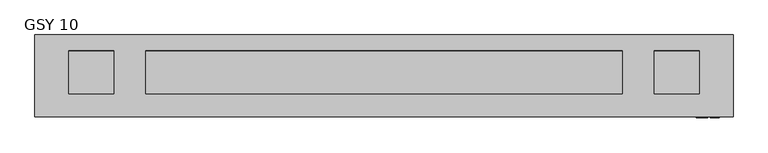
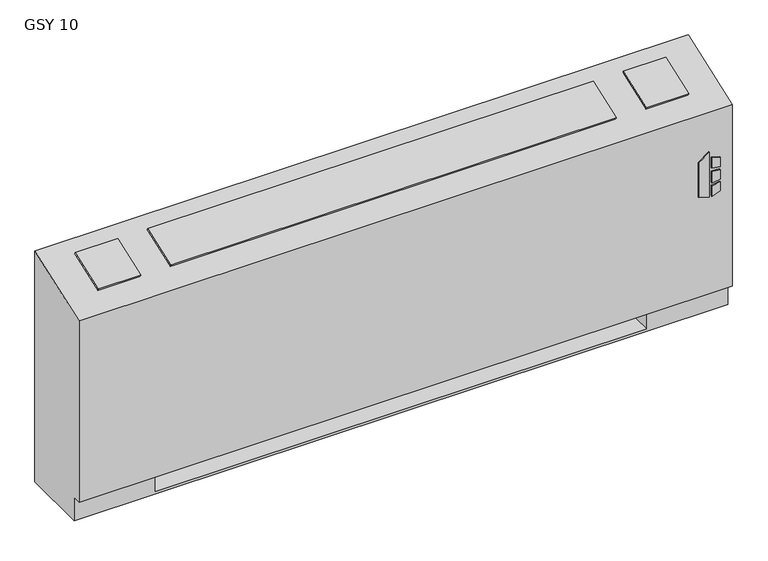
"""IFC4 building model written with IfcOpenShell, lengths in millimetres: proxy geometry, Vertical_Fan_Coil_Unit_-_GSY_-_IEC_-_2-Pipe_TS-FR_LH_2022 : GSY 10."""

import ifcopenshell
import ifcopenshell.guid

model = None  # the IFC model being written
_history = None  # IfcOwnerHistory: only IFC2X3 demands one
_inside = {}  # id of a spatial element -> (the spatial element, [elements in it])
_under = {}  # id of a project, library or spatial element -> (it, [spatial elements below it])
_declared = {}  # id of a project -> (the project, [libraries it declares])
_typed = {}  # id of a type object -> (the type object, [elements of that type])
_made_of = {}  # id of a material, layer set ... -> (it, [elements and type objects made of it])


def new_model(schema):
    """Start an empty IFC model of exactly this schema.

    Asked for "IFC4X3", IfcOpenShell would pick the latest addendum, in which some entities
    have other attributes; the version numbers below select the first issue.
    IFC2X3 requires an IfcOwnerHistory on every rooted entity: one is made here for all.
    """
    global model, _history
    if schema == "IFC4X3":
        model = ifcopenshell.file(schema_version=(4, 3, 0, 0))
    else:
        model = ifcopenshell.file(schema=schema)
    _inside.clear()
    _under.clear()
    _declared.clear()
    _typed.clear()
    _made_of.clear()
    _history = None
    if model.schema == "IFC2X3":
        org = make("IfcOrganization", Name="unknown")
        user = make(
            "IfcPersonAndOrganization",
            ThePerson=make("IfcPerson", FamilyName="unknown"),
            TheOrganization=org,
        )
        app = make(
            "IfcApplication",
            ApplicationDeveloper=org,
            Version="unknown",
            ApplicationFullName="unknown",
            ApplicationIdentifier="unknown",
        )
        _history = make(
            "IfcOwnerHistory",
            OwningUser=user,
            OwningApplication=app,
            ChangeAction="ADDED",
            CreationDate=0,
        )
    return model


def make(cls, **values):
    """One entity of the class cls with the attributes given. An attribute that is None is left unset."""
    return model.create_entity(
        cls, **{name: value for name, value in values.items() if value is not None}
    )


def rooted(cls, **values):
    """An entity with a GlobalId (a new one), such as an element, a storey or a relation."""
    return make(cls, GlobalId=ifcopenshell.guid.new(), OwnerHistory=_history, **values)


def si_unit(unit_type, name, prefix=None):
    """IfcSIUnit, for example si_unit("LENGTHUNIT", "METRE", prefix="MILLI")."""
    return make("IfcSIUnit", UnitType=unit_type, Prefix=prefix, Name=name)


def assignment(units):
    """IfcUnitAssignment: the units of a project."""
    return None if units is None else make("IfcUnitAssignment", Units=units)


def point(xyz):
    """IfcCartesianPoint."""
    return None if xyz is None else make("IfcCartesianPoint", Coordinates=xyz)


def direction(xyz):
    """IfcDirection."""
    return None if xyz is None else make("IfcDirection", DirectionRatios=xyz)


def frame(location, z_axis=None, x_axis=None):
    """IfcAxis2Placement3D, a coordinate frame: its origin and axes. An axis left out is left unset."""
    return make(
        "IfcAxis2Placement3D",
        Location=point(location),
        Axis=direction(z_axis),
        RefDirection=direction(x_axis),
    )


def frame_2d(location, x_axis=None):
    """IfcAxis2Placement2D, a coordinate frame in the plane: its origin and x axis."""
    return make(
        "IfcAxis2Placement2D", Location=point(location), RefDirection=direction(x_axis)
    )


def origin():
    """The frame at (0, 0, 0) with its axes left unset."""
    return frame((0.0, 0.0, 0.0))


def place(relative_to, where):
    """IfcLocalPlacement: puts the frame where relative to a parent placement (None: the world)."""
    return make(
        "IfcLocalPlacement", PlacementRelTo=relative_to, RelativePlacement=where
    )


def context(
    kind, dimensions, precision=None, world=None, true_north=None, identifier=None
):
    """IfcGeometricRepresentationContext, for example the 3D "Model" context."""
    return make(
        "IfcGeometricRepresentationContext",
        ContextIdentifier=identifier,
        ContextType=kind,
        CoordinateSpaceDimension=dimensions,
        Precision=precision,
        WorldCoordinateSystem=world,
        TrueNorth=true_north,
    )


def project(units=None, contexts=None):
    """IfcProject with its units and contexts."""
    return rooted(
        "IfcProject",
        Name="project",
        RepresentationContexts=contexts,
        UnitsInContext=assignment(units),
    )


def spatial(cls, under=None, at=None, **own):
    """A site, building, storey or space (cls), placed at a placement, below another one or the project."""
    s = rooted(cls, ObjectPlacement=at, **own)
    if under is not None:
        _under.setdefault(under.id(), (under, []))[1].append(s)
    return s


def polyline(points):
    """IfcPolyline through the points."""
    return make("IfcPolyline", Points=[point(p) for p in points])


def circle_curve(where, radius):
    """IfcCircle in the frame where."""
    return make("IfcCircle", Position=where, Radius=radius)


def trimmed(basis, trim1, trim2, sense, master):
    """IfcTrimmedCurve: the piece of a basis curve between two trims."""
    return make(
        "IfcTrimmedCurve",
        BasisCurve=basis,
        Trim1=trim1,
        Trim2=trim2,
        SenseAgreement=sense,
        MasterRepresentation=master,
    )


def segment(curve, same_sense, transition):
    """IfcCompositeCurveSegment."""
    return make(
        "IfcCompositeCurveSegment",
        Transition=transition,
        SameSense=same_sense,
        ParentCurve=curve,
    )


def composite_curve(segments, self_intersect=None):
    """IfcCompositeCurve: segments joined end to end."""
    return make("IfcCompositeCurve", Segments=segments, SelfIntersect=self_intersect)


def outline(outer, holes=None, kind="AREA"):
    """IfcArbitraryClosedProfileDef: a profile drawn as a closed curve; with holes, ...WithVoids."""
    if holes is None:
        return make("IfcArbitraryClosedProfileDef", ProfileType=kind, OuterCurve=outer)
    return make(
        "IfcArbitraryProfileDefWithVoids",
        ProfileType=kind,
        OuterCurve=outer,
        InnerCurves=holes,
    )


def extrude(swept, where, along, depth):
    """IfcExtrudedAreaSolid: the profile swept, set in the frame where, extruded along a direction by depth."""
    return make(
        "IfcExtrudedAreaSolid",
        SweptArea=swept,
        Position=where,
        ExtrudedDirection=direction(along),
        Depth=depth,
    )


def shape(context_of_items, identifier, shape_type, items):
    """IfcShapeRepresentation: the items that make up one representation, for example the "Body"."""
    return make(
        "IfcShapeRepresentation",
        ContextOfItems=context_of_items,
        RepresentationIdentifier=identifier,
        RepresentationType=shape_type,
        Items=items,
    )


def source(mapping_origin, context_of_items, identifier, shape_type, items):
    """IfcRepresentationMap: a shape defined once, which mapped items show again and again."""
    return make(
        "IfcRepresentationMap",
        MappingOrigin=mapping_origin,
        MappedRepresentation=shape(context_of_items, identifier, shape_type, items),
    )


def transform(
    local_origin,
    x_axis=None,
    y_axis=None,
    z_axis=None,
    scale=None,
    scale2=None,
    scale3=None,
    uniform=True,
):
    """IfcCartesianTransformationOperator3D, or its non-uniform kind. x_axis, y_axis, z_axis: its Axis1, 2, 3."""
    if uniform:
        return make(
            "IfcCartesianTransformationOperator3D",
            Axis1=direction(x_axis),
            Axis2=direction(y_axis),
            LocalOrigin=point(local_origin),
            Scale=scale,
            Axis3=direction(z_axis),
        )
    return make(
        "IfcCartesianTransformationOperator3DnonUniform",
        Axis1=direction(x_axis),
        Axis2=direction(y_axis),
        LocalOrigin=point(local_origin),
        Scale=scale,
        Axis3=direction(z_axis),
        Scale2=scale2,
        Scale3=scale3,
    )


def mapped(mapping_source, mapping_target):
    """IfcMappedItem: shows the shape of a source again, moved by a transform."""
    return make(
        "IfcMappedItem", MappingSource=mapping_source, MappingTarget=mapping_target
    )


def made_of(thing, what):
    """Note that an element or type object is made of a material, layer set ...; save() writes the relation."""
    if what is not None:
        _made_of.setdefault(what.id(), (what, []))[1].append(thing)
    return thing


def element(
    cls,
    number,
    at=None,
    inside=None,
    cuts=None,
    type_object=None,
    material=None,
    context=None,
    identifier="Body",
    shape_type=None,
    held_by="IfcProductDefinitionShape",
    body=None,
    shapes=None,
    **own,
):
    """One element of the class cls, such as IfcWall. Its Tag is "e" and its number.

    at: its placement. inside: the storey or other place that contains it. cuts: it is an
    opening in that element (IfcRelVoidsElement). A single representation is given by context,
    identifier, shape_type and body (its items); several are given by shapes. held_by: the class
    of the entity that holds the representations. save() writes the other relations.
    """
    e = rooted(cls, Tag="e%d" % number, ObjectPlacement=at, **own)
    if body is not None:
        shapes = [shape(context, identifier, shape_type, body)]
    if shapes is not None:
        e.Representation = make(held_by, Representations=shapes)
    if inside is not None:
        _inside.setdefault(inside.id(), (inside, []))[1].append(e)
    if cuts is not None:
        rooted(
            "IfcRelVoidsElement", RelatingBuildingElement=cuts, RelatedOpeningElement=e
        )
    if type_object is not None:
        _typed.setdefault(type_object.id(), (type_object, []))[1].append(e)
    return made_of(e, material)


def aggregate(whole, parts):
    """IfcRelAggregates: a whole, such as a stair, and the parts it consists of."""
    return rooted("IfcRelAggregates", RelatingObject=whole, RelatedObjects=parts)


def save(model, path):
    """Write the relations noted so far, then the file.

    IfcRelAggregates (storeys below a building ...), IfcRelContainedInSpatialStructure (elements
    in a storey), IfcRelDefinesByType, IfcRelAssociatesMaterial and IfcRelDeclares: one each for
    every whole, place, type object, material and project.
    """
    for whole, parts in _under.values():
        aggregate(whole, parts)
    for where, things in _inside.values():
        rooted(
            "IfcRelContainedInSpatialStructure",
            RelatedElements=things,
            RelatingStructure=where,
        )
    for kind, things in _typed.values():
        rooted("IfcRelDefinesByType", RelatedObjects=things, RelatingType=kind)
    for what, things in _made_of.values():
        rooted("IfcRelAssociatesMaterial", RelatedObjects=things, RelatingMaterial=what)
    for by, libraries in _declared.values():
        rooted("IfcRelDeclares", RelatingContext=by, RelatedDefinitions=libraries)
    model.write(path)


def plane_surface(at):
    """IfcPlane: the flat surface through the origin of the frame at, square to its z axis."""
    return make("IfcPlane", Position=at)


def revolved_surface(curve, axis_point, axis_direction):
    """IfcSurfaceOfRevolution: the curve turned about the line through axis_point along axis_direction."""
    return make(
        "IfcSurfaceOfRevolution",
        SweptCurve=make("IfcArbitraryOpenProfileDef", ProfileType="CURVE", Curve=curve),
        AxisPosition=make("IfcAxis1Placement", Location=point(axis_point), Axis=direction(axis_direction)),
    )


def advanced_brep(points, edges, surfaces, faces):
    """IfcAdvancedBrep: a solid bounded by faces that lie on surfaces and meet in shared edges.

    An edge is (start, end): straight between two places in points (the first is 0);
    or (start, end, curve); or (start, end, curve, False) where it runs against its curve.
    A face is (place in surfaces, loops), or (place, loops, False) where it looks against
    its surface's normal. A loop lists edges by number (the first is 1), with a minus sign
    where the edge is run from its end to its start. The first loop is the outer one.
    """
    corners = [point(p) for p in points]
    vertices = [make("IfcVertexPoint", VertexGeometry=c) for c in corners]
    made = []
    for start, end, *more in edges:
        made.append(
            make(
                "IfcEdgeCurve",
                EdgeStart=vertices[start],
                EdgeEnd=vertices[end],
                EdgeGeometry=more[0] if more else make("IfcPolyline", Points=[corners[start], corners[end]]),
                SameSense=more[1] if len(more) > 1 else True,
            )
        )
    hull = []
    for where, loops, *sense in faces:
        bounds = []
        for j, loop in enumerate(loops):
            ring = [make("IfcOrientedEdge", EdgeElement=made[abs(k) - 1], Orientation=k > 0) for k in loop]
            bounds.append(
                make(
                    "IfcFaceOuterBound" if j == 0 else "IfcFaceBound",
                    Bound=make("IfcEdgeLoop", EdgeList=ring),
                    Orientation=True,
                )
            )
        hull.append(make("IfcAdvancedFace", Bounds=bounds, FaceSurface=surfaces[where], SameSense=sense[0] if sense else True))
    return make("IfcAdvancedBrep", Outer=make("IfcClosedShell", CfsFaces=hull))


def gsy_10_e4929abb(model_context):
    return source(origin(), model_context, "Body", "SolidModel", [
        extrude(outline(polyline([(391.6086829, 1027.1868862), (381.6606126, 1059.3602728), (523.831537, 1059.3602728), (500.8095309, 1027.1868862), (391.6086829, 1027.1868862)])), frame((0.0, 12.7, 0.0), z_axis=(0.0, 1.0, 0.0), x_axis=(0.0, 0.0, 1.0)), (0.0, 0.0, 1.0), 3.175),
        extrude(outline(polyline([(470.6079683, 1066.1186058), (467.4055757, 1092.2), (496.6344168, 1092.2), (504.6988318, 1066.1186058), (470.6079683, 1066.1186058)])), frame((0.0, 12.7, 0.0), z_axis=(0.0, 1.0, 0.0), x_axis=(0.0, 0.0, 1.0)), (0.0, 0.0, 1.0), 3.175),
        extrude(outline(polyline([(418.7444414, 1092.2), (415.0789404, 1066.1186058), (381.6606126, 1066.1186058), (390.2948498, 1092.2), (418.7444414, 1092.2)])), frame((0.0, 12.7, 0.0), z_axis=(0.0, 1.0, 0.0), x_axis=(0.0, 0.0, 1.0)), (0.0, 0.0, 1.0), 3.175),
        extrude(outline(polyline([(458.0596028, 1092.2), (460.3414292, 1066.1186058), (424.4038806, 1066.1186058), (427.1451456, 1092.2), (458.0596028, 1092.2)])), frame((0.0, 12.7, 0.0), z_axis=(0.0, 1.0, 0.0), x_axis=(0.0, 0.0, 1.0)), (0.0, 0.0, 1.0), 3.175),
        extrude(outline(polyline([(0.0, -126.2347031), (0.0, 0.0), (127.0, 0.0), (127.0, -126.2347031), (0.0, -126.2347031)])), frame((-731.393, 200.4217127, 714.3418685), z_axis=(0.0, -0.33964446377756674, 0.9405538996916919), x_axis=(1.0, 0.0, 0.0)), (0.0, 0.0, 1.0), 6.35),
        extrude(outline(polyline([(0.0, -126.2347031), (0.0, 0.0), (1333.5, 0.0), (1333.5, -126.2347031), (0.0, -126.2347031)])), frame((819.15, 81.6911704, 671.4669504), z_axis=(0.0, -0.3396444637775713, 0.9405538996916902), x_axis=(-1.0, 0.0, 0.0)), (0.0, 0.0, 1.0), 6.35),
        extrude(outline(polyline([(0.0, -126.2347031), (0.0, 0.0), (127.0, 0.0), (127.0, -126.2347031), (0.0, -126.2347031)])), frame((1036.193, 81.6911704, 671.4669504), z_axis=(0.0, -0.3396444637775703, 0.9405538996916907), x_axis=(-1.0, 0.0, 0.0)), (0.0, 0.0, 1.0), 6.35),
        extrude(outline(polyline([(889.0, 81.534), (889.0, 223.266), (1009.65, 223.266), (1009.65, 81.534), (889.0, 81.534)])), frame((0.0, 0.0, 327.025), z_axis=(0.0, 0.0, 1.0), x_axis=(1.0, 0.0, 0.0)), (0.0, 0.0, 1.0), 260.35),
        extrude(outline(composite_curve([segment(trimmed(circle_curve(frame_2d((80.645, 397.002)), 7.9375), [point((80.645, 404.9395))], [point((80.645, 389.0645))], False, "CARTESIAN"), True, "CONTINUOUS"), segment(trimmed(circle_curve(frame_2d((80.645, 397.002)), 7.9375), [point((80.645, 389.0645))], [point((80.645, 404.9395))], False, "CARTESIAN"), True, "CONTINUOUS")], self_intersect=False)), frame((-635.0, 0.0, 0.0), z_axis=(1.0, 0.0, 0.0), x_axis=(0.0, 1.0, 0.0)), (0.0, 0.0, 1.0), 50.8),
        extrude(outline(composite_curve([segment(trimmed(circle_curve(frame_2d((156.8958, 535.8892)), 7.9375), [point((156.8958, 543.8267))], [point((156.8958, 527.9517))], False, "CARTESIAN"), True, "CONTINUOUS"), segment(trimmed(circle_curve(frame_2d((156.8958, 535.8892)), 7.9375), [point((156.8958, 527.9517))], [point((156.8958, 543.8267))], False, "CARTESIAN"), True, "CONTINUOUS")], self_intersect=False)), frame((-635.0, 0.0, 0.0), z_axis=(1.0, 0.0, 0.0), x_axis=(0.0, 1.0, 0.0)), (0.0, 0.0, 1.0), 50.8),
        advanced_brep(
        [(-825.5, 244.475, 0.0), (1130.3, 244.475, 0.0), (1130.3, 41.275, 0.0), (-825.5, 41.275, 0.0), (-825.5, 244.475, 730.25), (1130.3, 244.475, 730.25), (889.0, 244.475, 73.025), (1117.6, 244.475, 73.025), (1117.6, 244.475, 654.05), (889.0, 244.475, 654.05), (889.0, 244.475, 414.8650565), (917.575, 244.475, 414.8650565), (917.575, 244.475, 385.2349435), (889.0, 244.475, 385.2349435), (889.0, 244.475, 287.3375), (917.575, 244.475, 287.3375), (917.575, 244.475, 258.7625), (889.0, 244.475, 258.7625), (889.0, 244.475, 141.2875), (917.575, 244.475, 141.2875), (917.575, 244.475, 112.7125), (889.0, 244.475, 112.7125), (-584.2, 244.475, 654.05), (-812.8, 244.475, 654.05), (-812.8, 244.475, 73.025), (-584.2, 244.475, 73.025), (-584.2, 244.475, 112.7125), (-612.775, 244.475, 112.7125), (-612.775, 244.475, 141.2875), (-584.2, 244.475, 141.2875), (-584.2, 244.475, 258.7625), (-612.775, 244.475, 258.7625), (-612.775, 244.475, 287.3375), (-584.2, 244.475, 287.3375), (-584.2, 244.475, 385.2349435), (-612.775, 244.475, 385.2349435), (-612.775, 244.475, 414.8650565), (-584.2, 244.475, 414.8650565), (907.2626, 244.475, 127.0), (896.1374, 244.475, 127.0), (907.2626, 244.475, 400.05), (896.1374, 244.475, 400.05), (907.2626, 244.475, 273.05), (896.1374, 244.475, 273.05), (-591.3374, 244.475, 127.0), (-602.4626, 244.475, 127.0), (-591.3374, 244.475, 273.05), (-602.4626, 244.475, 273.05), (-591.3374, 244.475, 400.05), (-602.4626, 244.475, 400.05), (-825.5, 41.275, 73.025), (-825.5, 15.875, 73.025), (-825.5, 15.875, 647.7), (1130.3, 15.875, 73.025), (1130.3, 15.875, 647.7), (1130.3, 41.275, 73.025), (-584.2, 41.275, 73.025), (-584.2, 225.425, 73.025), (889.0, 225.425, 73.025), (889.0, 41.275, 73.025), (889.0, 41.275, 6.35), (-584.2, 41.275, 6.35), (889.0, 41.275, 654.05), (1117.6, 41.275, 654.05), (1117.6, 41.275, 73.025), (889.0, 41.275, 73.025), (-584.2, 41.275, 654.05), (-584.2, 41.275, 73.025), (-812.8, 41.275, 73.025), (-812.8, 41.275, 654.05), (889.0, 225.425, 73.025), (889.0, 238.125, 112.7125), (889.0, 238.125, 141.2875), (889.0, 238.125, 258.7625), (889.0, 238.125, 287.3375), (889.0, 238.125, 385.2349435), (889.0, 238.125, 414.8650565), (-584.2, 225.425, 73.025), (-584.2, 238.125, 414.8650565), (-584.2, 238.125, 385.2349435), (-584.2, 238.125, 287.3375), (-584.2, 238.125, 258.7625), (-584.2, 238.125, 141.2875), (-584.2, 238.125, 112.7125), (-584.2, 225.425, 6.35), (889.0, 225.425, 6.35), (917.575, 238.125, 112.7125), (917.575, 238.125, 141.2875), (896.1374, 238.125, 127.0), (907.2626, 238.125, 127.0), (917.575, 238.125, 258.7625), (917.575, 238.125, 287.3375), (896.1374, 238.125, 273.05), (907.2626, 238.125, 273.05), (917.575, 238.125, 385.2349435), (917.575, 238.125, 414.8650565), (896.1374, 238.125, 400.05), (907.2626, 238.125, 400.05), (-612.775, 238.125, 141.2875), (-612.775, 238.125, 112.7125), (-602.4626, 238.125, 127.0), (-591.3374, 238.125, 127.0), (-612.775, 238.125, 287.3375), (-612.775, 238.125, 258.7625), (-602.4626, 238.125, 273.05), (-591.3374, 238.125, 273.05), (-612.775, 238.125, 414.8650565), (-612.775, 238.125, 385.2349435), (-602.4626, 238.125, 400.05), (-591.3374, 238.125, 400.05)],
        [
            (0, 1),
            (1, 2),
            (2, 3),
            (3, 0),
            (0, 4),
            (4, 5),
            (5, 1),
            (6, 7),
            (7, 8),
            (8, 9),
            (9, 10),
            (10, 11),
            (11, 12),
            (12, 13),
            (13, 14),
            (14, 15),
            (15, 16),
            (16, 17),
            (17, 18),
            (18, 19),
            (19, 20),
            (20, 21),
            (21, 6),
            (22, 23),
            (23, 24),
            (24, 25),
            (25, 26),
            (26, 27),
            (27, 28),
            (28, 29),
            (29, 30),
            (30, 31),
            (31, 32),
            (32, 33),
            (33, 34),
            (34, 35),
            (35, 36),
            (36, 37),
            (37, 22),
            (38, 39, circle_curve(frame((901.7, 244.475, 127.0), z_axis=(0.0, -1.0, 0.0), x_axis=(-1.0, 0.0, 0.0)), 5.5626)),
            (39, 38, circle_curve(frame((901.7, 244.475, 127.0), z_axis=(0.0, -1.0, 0.0), x_axis=(-1.0, 0.0, 0.0)), 5.5626)),
            (40, 41, circle_curve(frame((901.7, 244.475, 400.05), z_axis=(0.0, -1.0, 0.0), x_axis=(-1.0, 0.0, 0.0)), 5.5626)),
            (41, 40, circle_curve(frame((901.7, 244.475, 400.05), z_axis=(0.0, -1.0, 0.0), x_axis=(-1.0, 0.0, 0.0)), 5.5626)),
            (42, 43, circle_curve(frame((901.7, 244.475, 273.05), z_axis=(0.0, -1.0, 0.0), x_axis=(-1.0, 0.0, 0.0)), 5.5626)),
            (43, 42, circle_curve(frame((901.7, 244.475, 273.05), z_axis=(0.0, -1.0, 0.0), x_axis=(-1.0, 0.0, 0.0)), 5.5626)),
            (44, 45, circle_curve(frame((-596.9, 244.475, 127.0), z_axis=(0.0, -1.0, 0.0), x_axis=(-1.0, 0.0, 0.0)), 5.5626)),
            (45, 44, circle_curve(frame((-596.9, 244.475, 127.0), z_axis=(0.0, -1.0, 0.0), x_axis=(-1.0, 0.0, 0.0)), 5.5626)),
            (46, 47, circle_curve(frame((-596.9, 244.475, 273.05), z_axis=(0.0, -1.0, 0.0), x_axis=(-1.0, 0.0, 0.0)), 5.5626)),
            (47, 46, circle_curve(frame((-596.9, 244.475, 273.05), z_axis=(0.0, -1.0, 0.0), x_axis=(-1.0, 0.0, 0.0)), 5.5626)),
            (48, 49, circle_curve(frame((-596.9, 244.475, 400.05), z_axis=(0.0, -1.0, 0.0), x_axis=(-1.0, 0.0, 0.0)), 5.5626)),
            (49, 48, circle_curve(frame((-596.9, 244.475, 400.05), z_axis=(0.0, -1.0, 0.0), x_axis=(-1.0, 0.0, 0.0)), 5.5626)),
            (3, 50),
            (50, 51),
            (51, 52),
            (52, 4),
            (51, 53),
            (53, 54),
            (54, 52),
            (5, 54),
            (53, 55),
            (55, 2),
            (50, 56),
            (56, 57),
            (57, 58),
            (58, 59),
            (59, 55),
            (59, 60),
            (60, 61),
            (61, 56),
            (62, 63),
            (63, 64),
            (64, 65),
            (65, 62),
            (66, 67),
            (67, 68),
            (68, 69),
            (69, 66),
            (65, 70),
            (70, 6),
            (21, 71),
            (71, 72),
            (72, 18),
            (17, 73),
            (73, 74),
            (74, 14),
            (13, 75),
            (75, 76),
            (76, 10),
            (9, 62),
            (64, 7),
            (63, 8),
            (69, 23),
            (22, 66),
            (68, 24),
            (67, 77),
            (77, 25),
            (37, 78),
            (78, 79),
            (79, 34),
            (33, 80),
            (80, 81),
            (81, 30),
            (29, 82),
            (82, 83),
            (83, 26),
            (57, 84),
            (84, 85),
            (85, 58),
            (85, 60),
            (84, 61),
            (71, 86),
            (86, 87),
            (87, 72),
            (88, 89, circle_curve(frame((901.7, 238.125, 127.0), z_axis=(0.0, 1.0, 0.0), x_axis=(-1.0, 0.0, 0.0)), 5.5626)),
            (89, 88, circle_curve(frame((901.7, 238.125, 127.0), z_axis=(0.0, 1.0, 0.0), x_axis=(-1.0, 0.0, 0.0)), 5.5626)),
            (73, 90),
            (90, 91),
            (91, 74),
            (92, 93, circle_curve(frame((901.7, 238.125, 273.05), z_axis=(0.0, 1.0, 0.0), x_axis=(-1.0, 0.0, 0.0)), 5.5626)),
            (93, 92, circle_curve(frame((901.7, 238.125, 273.05), z_axis=(0.0, 1.0, 0.0), x_axis=(-1.0, 0.0, 0.0)), 5.5626)),
            (75, 94),
            (94, 95),
            (95, 76),
            (96, 97, circle_curve(frame((901.7, 238.125, 400.05), z_axis=(0.0, 1.0, 0.0), x_axis=(-1.0, 0.0, 0.0)), 5.5626)),
            (97, 96, circle_curve(frame((901.7, 238.125, 400.05), z_axis=(0.0, 1.0, 0.0), x_axis=(-1.0, 0.0, 0.0)), 5.5626)),
            (98, 99),
            (99, 83),
            (82, 98),
            (100, 101, circle_curve(frame((-596.9, 238.125, 127.0), z_axis=(0.0, 1.0, 0.0), x_axis=(-1.0, 0.0, 0.0)), 5.5626)),
            (101, 100, circle_curve(frame((-596.9, 238.125, 127.0), z_axis=(0.0, 1.0, 0.0), x_axis=(-1.0, 0.0, 0.0)), 5.5626)),
            (102, 103),
            (103, 81),
            (80, 102),
            (104, 105, circle_curve(frame((-596.9, 238.125, 273.05), z_axis=(0.0, 1.0, 0.0), x_axis=(-1.0, 0.0, 0.0)), 5.5626)),
            (105, 104, circle_curve(frame((-596.9, 238.125, 273.05), z_axis=(0.0, 1.0, 0.0), x_axis=(-1.0, 0.0, 0.0)), 5.5626)),
            (106, 107),
            (107, 79),
            (78, 106),
            (108, 109, circle_curve(frame((-596.9, 238.125, 400.05), z_axis=(0.0, 1.0, 0.0), x_axis=(-1.0, 0.0, 0.0)), 5.5626)),
            (109, 108, circle_curve(frame((-596.9, 238.125, 400.05), z_axis=(0.0, 1.0, 0.0), x_axis=(-1.0, 0.0, 0.0)), 5.5626)),
            (87, 19),
            (86, 20),
            (91, 15),
            (90, 16),
            (95, 11),
            (94, 12),
            (28, 98),
            (99, 27),
            (32, 102),
            (103, 31),
            (36, 106),
            (107, 35),
            (88, 39),
            (38, 89),
            (96, 41),
            (40, 97),
            (92, 43),
            (42, 93),
            (100, 45),
            (44, 101),
            (104, 47),
            (46, 105),
            (108, 49),
            (48, 109),
        ],
        [
            plane_surface(frame((-825.5, 244.475, 0.0), z_axis=(0.0, 0.0, -1.0), x_axis=(1.0, 0.0, 0.0))),
            plane_surface(frame((1130.3, 244.475, 730.25), z_axis=(0.0, 1.0, 0.0), x_axis=(0.0, 0.0, -1.0))),
            plane_surface(frame((-825.5, 244.475, 730.25), z_axis=(-1.0, 0.0, 0.0), x_axis=(0.0, 0.0, -1.0))),
            plane_surface(frame((-825.5, 15.875, 730.25), z_axis=(0.0, -1.0, 0.0), x_axis=(0.0, 0.0, -1.0))),
            plane_surface(frame((1130.3, 15.875, 730.25), z_axis=(1.0, 0.0, 0.0), x_axis=(0.0, 0.0, -1.0))),
            plane_surface(frame((-825.5, 15.875, 73.025), z_axis=(0.0, 0.0, -1.0), x_axis=(1.0, 0.0, 0.0))),
            plane_surface(frame((-825.5, 41.275, 73.025), z_axis=(0.0, -1.0, 0.0), x_axis=(1.0, 0.0, 0.0))),
            plane_surface(frame((889.0, 41.275, 654.05), z_axis=(0.0, 1.0, 0.0), x_axis=(0.0, 0.0, -1.0))),
            plane_surface(frame((889.0, 41.275, 654.05), z_axis=(1.0, 0.0, 0.0), x_axis=(0.0, 1.0, 0.0))),
            plane_surface(frame((889.0, 41.275, 73.025), z_axis=(0.0, 0.0, 1.0), x_axis=(0.0, 1.0, 0.0))),
            plane_surface(frame((1117.6, 41.275, 73.025), z_axis=(-1.0, 0.0, 0.0), x_axis=(0.0, 1.0, 0.0))),
            plane_surface(frame((1117.6, 41.275, 654.05), z_axis=(0.0, 0.0, -1.0), x_axis=(0.0, 1.0, 0.0))),
            plane_surface(frame((-584.2, 41.275, 654.05), z_axis=(0.0, 0.0, -1.0), x_axis=(0.0, 1.0, 0.0))),
            plane_surface(frame((-812.8, 41.275, 654.05), z_axis=(1.0, 0.0, 0.0), x_axis=(0.0, 1.0, 0.0))),
            plane_surface(frame((-812.8, 41.275, 73.025), z_axis=(0.0, 0.0, 1.0), x_axis=(0.0, 1.0, 0.0))),
            plane_surface(frame((-584.2, 41.275, 73.025), z_axis=(-1.0, 0.0, 0.0), x_axis=(0.0, 1.0, 0.0))),
            plane_surface(frame((889.0, 225.425, 73.025), z_axis=(0.0, -1.0, 0.0), x_axis=(0.0, 0.0, -1.0))),
            plane_surface(frame((889.0, 225.425, 73.025), z_axis=(-1.0, 0.0, 0.0), x_axis=(0.0, -1.0, 0.0))),
            plane_surface(frame((889.0, 225.425, 6.35), z_axis=(0.0, 0.0, 1.0), x_axis=(0.0, -1.0, 0.0))),
            plane_surface(frame((-584.2, 225.425, 6.35), z_axis=(1.0, 0.0, 0.0), x_axis=(0.0, -1.0, 0.0))),
            plane_surface(frame((917.575, 238.125, 141.2875), z_axis=(0.0, -1.0, 0.0), x_axis=(-1.0, 0.0, 0.0))),
            plane_surface(frame((889.0, 244.475, 141.2875), z_axis=(0.0, 0.0, 1.0), x_axis=(0.0, -1.0, 0.0))),
            plane_surface(frame((917.575, 244.475, 141.2875), z_axis=(1.0, 0.0, 0.0), x_axis=(0.0, -1.0, 0.0))),
            plane_surface(frame((917.575, 244.475, 112.7125), z_axis=(0.0, 0.0, -1.0), x_axis=(0.0, -1.0, 0.0))),
            plane_surface(frame((889.0, 244.475, 287.3375), z_axis=(0.0, 0.0, 1.0), x_axis=(0.0, -1.0, 0.0))),
            plane_surface(frame((917.575, 244.475, 287.3375), z_axis=(1.0, 0.0, 0.0), x_axis=(0.0, -1.0, 0.0))),
            plane_surface(frame((917.575, 244.475, 258.7625), z_axis=(0.0, 0.0, -1.0), x_axis=(0.0, -1.0, 0.0))),
            plane_surface(frame((889.0, 244.475, 414.8650565), z_axis=(0.0, 0.0, 1.0), x_axis=(0.0, -1.0, 0.0))),
            plane_surface(frame((917.575, 244.475, 414.8650565), z_axis=(1.0, 0.0, 0.0), x_axis=(0.0, -1.0, 0.0))),
            plane_surface(frame((917.575, 244.475, 385.2349435), z_axis=(0.0, 0.0, -1.0), x_axis=(0.0, -1.0, 0.0))),
            plane_surface(frame((-612.775, 244.475, 141.2875), z_axis=(0.0, 0.0, 1.0), x_axis=(0.0, -1.0, 0.0))),
            plane_surface(frame((-584.2, 244.475, 112.7125), z_axis=(0.0, 0.0, -1.0), x_axis=(0.0, -1.0, 0.0))),
            plane_surface(frame((-612.775, 244.475, 112.7125), z_axis=(-1.0, 0.0, 0.0), x_axis=(0.0, -1.0, 0.0))),
            plane_surface(frame((-612.775, 244.475, 287.3375), z_axis=(0.0, 0.0, 1.0), x_axis=(0.0, -1.0, 0.0))),
            plane_surface(frame((-584.2, 244.475, 258.7625), z_axis=(0.0, 0.0, -1.0), x_axis=(0.0, -1.0, 0.0))),
            plane_surface(frame((-612.775, 244.475, 258.7625), z_axis=(-1.0, 0.0, 0.0), x_axis=(0.0, -1.0, 0.0))),
            plane_surface(frame((-612.775, 244.475, 414.8650565), z_axis=(0.0, 0.0, 1.0), x_axis=(0.0, -1.0, 0.0))),
            plane_surface(frame((-584.2, 244.475, 385.2349435), z_axis=(0.0, 0.0, -1.0), x_axis=(0.0, -1.0, 0.0))),
            plane_surface(frame((-612.775, 244.475, 385.2349435), z_axis=(-1.0, 0.0, 0.0), x_axis=(0.0, -1.0, 0.0))),
            revolved_surface(polyline([(896.1374000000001, 238.125, 127.0), (896.1374000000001, 244.475, 127.0)]), (901.7, 244.475, 127.0), (0.0, -1.0, 0.0)),
            revolved_surface(polyline([(896.1374000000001, 238.125, 400.05), (896.1374000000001, 244.475, 400.05)]), (901.7, 244.475, 400.05), (0.0, -1.0, 0.0)),
            revolved_surface(polyline([(896.1374000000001, 238.125, 273.05), (896.1374000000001, 244.475, 273.05)]), (901.7, 244.475, 273.05), (0.0, -1.0, 0.0)),
            revolved_surface(polyline([(-602.4626, 238.125, 127.0), (-602.4626, 244.475, 127.0)]), (-596.9, 244.475, 127.0), (0.0, -1.0, 0.0)),
            revolved_surface(polyline([(-602.4626, 238.125, 273.05), (-602.4626, 244.475, 273.05)]), (-596.9, 244.475, 273.05), (0.0, -1.0, 0.0)),
            revolved_surface(polyline([(-602.4626, 238.125, 400.05), (-602.4626, 244.475, 400.05)]), (-596.9, 244.475, 400.05), (0.0, -1.0, 0.0)),
            plane_surface(frame((-825.5, 244.475, 730.25), z_axis=(0.0, -0.33964446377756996, 0.9405538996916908), x_axis=(1.0, 0.0, 0.0))),
        ],
        [
            (0, [[1, 2, 3, 4]]),
            (1, [[-1, 5, 6, 7], [8, 9, 10, 11, 12, 13, 14, 15, 16, 17, 18, 19, 20, 21, 22, 23], [24, 25, 26, 27, 28, 29, 30, 31, 32, 33, 34, 35, 36, 37, 38, 39], [40, 41], [42, 43], [44, 45], [46, 47], [48, 49], [50, 51]]),
            (2, [[-5, -4, 52, 53, 54, 55]]),
            (3, [[56, 57, 58, -54]]),
            (4, [[-7, 59, -57, 60, 61, -2]]),
            (5, [[-53, 62, 63, 64, 65, 66, -60, -56]]),
            (6, [[-3, -61, -66, 67, 68, 69, -62, -52]]),
            (7, [[70, 71, 72, 73]]),
            (7, [[74, 75, 76, 77]]),
            (8, [[-73, 78, 79, -23, 80, 81, 82, -19, 83, 84, 85, -15, 86, 87, 88, -11, 89]]),
            (9, [[-72, 90, -8, -79, -78]]),
            (10, [[-71, 91, -9, -90]]),
            (11, [[-70, -89, -10, -91]]),
            (12, [[-77, 92, -24, 93]]),
            (13, [[-76, 94, -25, -92]]),
            (14, [[-75, 95, 96, -26, -94]]),
            (15, [[-74, -93, -39, 97, 98, 99, -35, 100, 101, 102, -31, 103, 104, 105, -27, -96, -95]]),
            (16, [[-64, 106, 107, 108]]),
            (17, [[-108, 109, -67, -65]]),
            (18, [[-107, 110, -68, -109]]),
            (19, [[-106, -63, -69, -110]]),
            (20, [[111, 112, 113, -81], [114, 115]]),
            (20, [[116, 117, 118, -84], [119, 120]]),
            (20, [[121, 122, 123, -87], [124, 125]]),
            (20, [[126, 127, -104, 128], [129, 130]]),
            (20, [[131, 132, -101, 133], [134, 135]]),
            (20, [[136, 137, -98, 138], [139, 140]]),
            (21, [[-113, 141, -20, -82]]),
            (22, [[-112, 142, -21, -141]]),
            (23, [[-111, -80, -22, -142]]),
            (24, [[-118, 143, -16, -85]]),
            (25, [[-117, 144, -17, -143]]),
            (26, [[-116, -83, -18, -144]]),
            (27, [[-123, 145, -12, -88]]),
            (28, [[-122, 146, -13, -145]]),
            (29, [[-121, -86, -14, -146]]),
            (30, [[-128, -103, -30, 147]]),
            (31, [[-127, 148, -28, -105]]),
            (32, [[-126, -147, -29, -148]]),
            (33, [[-133, -100, -34, 149]]),
            (34, [[-132, 150, -32, -102]]),
            (35, [[-131, -149, -33, -150]]),
            (36, [[-138, -97, -38, 151]]),
            (37, [[-137, 152, -36, -99]]),
            (38, [[-136, -151, -37, -152]]),
            (39, [[153, -40, 154, -114]]),
            (39, [[-153, -115, -154, -41]]),
            (40, [[155, -42, 156, -124]]),
            (40, [[-155, -125, -156, -43]]),
            (41, [[157, -44, 158, -119]]),
            (41, [[-157, -120, -158, -45]]),
            (42, [[159, -46, 160, -129]]),
            (42, [[-159, -130, -160, -47]]),
            (43, [[161, -48, 162, -134]]),
            (43, [[-161, -135, -162, -49]]),
            (44, [[163, -50, 164, -139]]),
            (44, [[-163, -140, -164, -51]]),
            (45, [[-6, -55, -58, -59]]),
        ],
    ),
    ])


if __name__ == "__main__":
    model = new_model("IFC4")
    model_context = context("Model", 3, world=origin())
    ifc_project = project(units=[si_unit("LENGTHUNIT", "METRE", prefix="MILLI")], contexts=[model_context])
    site = spatial("IfcSite", under=ifc_project)
    building = spatial("IfcBuilding", under=site)
    placement = place(None, origin())
    gsy_10_shape = gsy_10_e4929abb(model_context)
    element("IfcBuildingElementProxy", 1, Name="Vertical_Fan_Coil_Unit_-_GSY_-_IEC_-_2-Pipe_TS-FR_LH_2022 : GSY 10", ObjectType="Vertical_Fan_Coil_Unit_-_GSY_-_IEC_-_2-Pipe_TS-FR_LH_2022 : GSY 10", at=placement, inside=building, context=model_context, shape_type="MappedRepresentation", body=[
        mapped(gsy_10_shape, transform((0.0, 0.0, 0.0), x_axis=(1.0, 0.0, 0.0), y_axis=(0.0, 1.0, 0.0), z_axis=(0.0, 0.0, 1.0))),
    ])
    save(model, "model.ifc")
